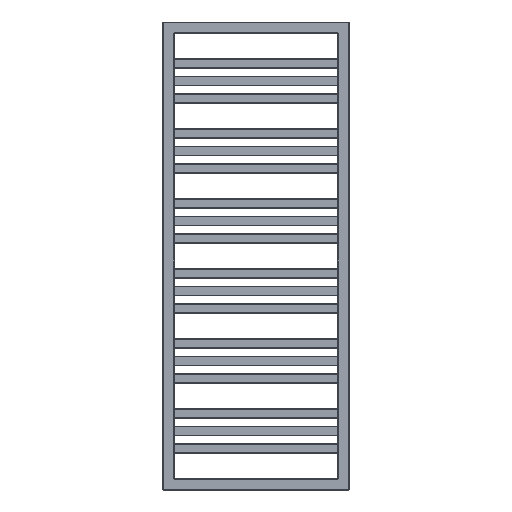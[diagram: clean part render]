
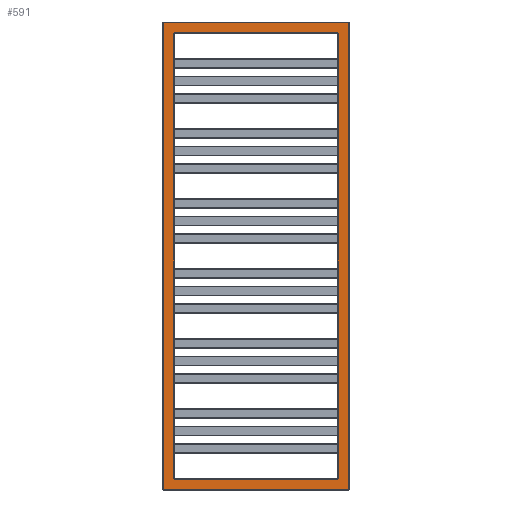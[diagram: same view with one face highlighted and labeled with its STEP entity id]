
A CAD part, top view. The second image highlights one B-rep face of the part: STEP entity #591.
In plain terms, the highlighted planar face has unit normal (0, 0, 1).
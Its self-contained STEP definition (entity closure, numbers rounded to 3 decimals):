
#168 = CARTESIAN_POINT ( 'NONE',  ( 249., 627.5, 15. ) ) ;
#193 = CARTESIAN_POINT ( 'NONE',  ( 221., -598.5, 15. ) ) ;
#359 = CARTESIAN_POINT ( 'NONE',  ( -221., -597.5, 15. ) ) ;
#407 = EDGE_LOOP ( 'NONE', ( #11157, #9372, #9670, #8884, #8318, #2121, #4153, #4969 ) ) ;
#497 = VECTOR ( 'NONE', #10654, 1000. ) ;
#591 = ADVANCED_FACE ( 'NONE', ( #6340, #6590 ), #9405, .F. ) ;
#1274 = VERTEX_POINT ( 'NONE', #4461 ) ;
#1372 = VERTEX_POINT ( 'NONE', #12792 ) ;
#1483 = CIRCLE ( 'NONE', #12412, 2. ) ;
#1600 = CARTESIAN_POINT ( 'NONE',  ( 0., 0., 15. ) ) ;
#1669 = DIRECTION ( 'NONE',  ( -1., 0., 0. ) ) ;
#1796 = EDGE_CURVE ( 'NONE', #1372, #9128, #5304, .T. ) ;
#2121 = ORIENTED_EDGE ( 'NONE', *, *, #2271, .T. ) ;
#2245 = CARTESIAN_POINT ( 'NONE',  ( 221., -597.5, 15. ) ) ;
#2266 = CIRCLE ( 'NONE', #2681, 2. ) ;
#2271 = EDGE_CURVE ( 'NONE', #3753, #2313, #9016, .T. ) ;
#2313 = VERTEX_POINT ( 'NONE', #13245 ) ;
#2410 = AXIS2_PLACEMENT_3D ( 'NONE', #9051, #13154, #12887 ) ;
#2482 = DIRECTION ( 'NONE',  ( -1., 0., 0. ) ) ;
#2550 = CARTESIAN_POINT ( 'NONE',  ( 0., 627.5, 15. ) ) ;
#2681 = AXIS2_PLACEMENT_3D ( 'NONE', #3437, #7554, #10091 ) ;
#2697 = ORIENTED_EDGE ( 'NONE', *, *, #7713, .T. ) ;
#3068 = DIRECTION ( 'NONE',  ( -1., 0., 0. ) ) ;
#3112 = VECTOR ( 'NONE', #5592, 1000. ) ;
#3226 = EDGE_CURVE ( 'NONE', #5658, #4269, #3619, .T. ) ;
#3437 = CARTESIAN_POINT ( 'NONE',  ( 219., 597.5, 15. ) ) ;
#3475 = DIRECTION ( 'NONE',  ( 0., 0., -1. ) ) ;
#3619 = LINE ( 'NONE', #7668, #3112 ) ;
#3698 = VECTOR ( 'NONE', #9391, 1000. ) ;
#3712 = CARTESIAN_POINT ( 'NONE',  ( 249., -627.5, 15. ) ) ;
#3753 = VERTEX_POINT ( 'NONE', #7954 ) ;
#3967 = ORIENTED_EDGE ( 'NONE', *, *, #10189, .T. ) ;
#3991 = EDGE_CURVE ( 'NONE', #1372, #4269, #13234, .T. ) ;
#4069 = VECTOR ( 'NONE', #4174, 1000. ) ;
#4153 = ORIENTED_EDGE ( 'NONE', *, *, #8602, .F. ) ;
#4174 = DIRECTION ( 'NONE',  ( 0., 1., 0. ) ) ;
#4269 = VERTEX_POINT ( 'NONE', #6404 ) ;
#4329 = DIRECTION ( 'NONE',  ( 0., -1., 0. ) ) ;
#4357 = CARTESIAN_POINT ( 'NONE',  ( 220., 599.5, 15. ) ) ;
#4461 = CARTESIAN_POINT ( 'NONE',  ( -249., -627.5, 15. ) ) ;
#4525 = CARTESIAN_POINT ( 'NONE',  ( 0., -627.5, 15. ) ) ;
#4796 = VERTEX_POINT ( 'NONE', #3712 ) ;
#4799 = VECTOR ( 'NONE', #5751, 1000. ) ;
#4969 = ORIENTED_EDGE ( 'NONE', *, *, #3226, .T. ) ;
#5304 = LINE ( 'NONE', #4357, #3698 ) ;
#5488 = LINE ( 'NONE', #10385, #7091 ) ;
#5490 = LINE ( 'NONE', #193, #497 ) ;
#5592 = DIRECTION ( 'NONE',  ( 0., 1., 0. ) ) ;
#5658 = VERTEX_POINT ( 'NONE', #359 ) ;
#5751 = DIRECTION ( 'NONE',  ( -1., 0., 0. ) ) ;
#6001 = CARTESIAN_POINT ( 'NONE',  ( -249., 627.5, 15. ) ) ;
#6340 = FACE_BOUND ( 'NONE', #407, .T. ) ;
#6404 = CARTESIAN_POINT ( 'NONE',  ( -221., 597.5, 15. ) ) ;
#6489 = LINE ( 'NONE', #4525, #8668 ) ;
#6590 = FACE_OUTER_BOUND ( 'NONE', #10285, .T. ) ;
#6684 = DIRECTION ( 'NONE',  ( -1., 0., 0. ) ) ;
#6766 = CARTESIAN_POINT ( 'NONE',  ( -220., -599.5, 15. ) ) ;
#6933 = AXIS2_PLACEMENT_3D ( 'NONE', #1600, #3475, #1669 ) ;
#7091 = VECTOR ( 'NONE', #4329, 1000. ) ;
#7109 = EDGE_CURVE ( 'NONE', #3753, #9232, #1483, .T. ) ;
#7554 = DIRECTION ( 'NONE',  ( 0., 0., 1. ) ) ;
#7668 = CARTESIAN_POINT ( 'NONE',  ( -221., 598.5, 15. ) ) ;
#7711 = CARTESIAN_POINT ( 'NONE',  ( 221., 597.5, 15. ) ) ;
#7713 = EDGE_CURVE ( 'NONE', #10412, #1274, #5488, .T. ) ;
#7954 = CARTESIAN_POINT ( 'NONE',  ( 219., -599.5, 15. ) ) ;
#7971 = EDGE_CURVE ( 'NONE', #4796, #8006, #10497, .T. ) ;
#8006 = VERTEX_POINT ( 'NONE', #168 ) ;
#8318 = ORIENTED_EDGE ( 'NONE', *, *, #7109, .F. ) ;
#8602 = EDGE_CURVE ( 'NONE', #5658, #2313, #13132, .T. ) ;
#8668 = VECTOR ( 'NONE', #9352, 1000. ) ;
#8676 = VECTOR ( 'NONE', #2482, 1000. ) ;
#8794 = EDGE_CURVE ( 'NONE', #12135, #9232, #5490, .T. ) ;
#8884 = ORIENTED_EDGE ( 'NONE', *, *, #8794, .T. ) ;
#9016 = LINE ( 'NONE', #6766, #4799 ) ;
#9027 = ORIENTED_EDGE ( 'NONE', *, *, #9235, .T. ) ;
#9051 = CARTESIAN_POINT ( 'NONE',  ( -219., -597.5, 15. ) ) ;
#9128 = VERTEX_POINT ( 'NONE', #12246 ) ;
#9192 = CARTESIAN_POINT ( 'NONE',  ( 219., -597.5, 15. ) ) ;
#9232 = VERTEX_POINT ( 'NONE', #2245 ) ;
#9235 = EDGE_CURVE ( 'NONE', #1274, #4796, #6489, .T. ) ;
#9352 = DIRECTION ( 'NONE',  ( 1., 0., 0. ) ) ;
#9372 = ORIENTED_EDGE ( 'NONE', *, *, #1796, .T. ) ;
#9391 = DIRECTION ( 'NONE',  ( 1., 0., 0. ) ) ;
#9405 = PLANE ( 'NONE',  #6933 ) ;
#9552 = CARTESIAN_POINT ( 'NONE',  ( -219., 597.5, 15. ) ) ;
#9670 = ORIENTED_EDGE ( 'NONE', *, *, #11282, .F. ) ;
#10091 = DIRECTION ( 'NONE',  ( -1., 0., 0. ) ) ;
#10189 = EDGE_CURVE ( 'NONE', #8006, #10412, #10740, .T. ) ;
#10285 = EDGE_LOOP ( 'NONE', ( #2697, #9027, #12697, #3967 ) ) ;
#10385 = CARTESIAN_POINT ( 'NONE',  ( -249., 0., 15. ) ) ;
#10412 = VERTEX_POINT ( 'NONE', #6001 ) ;
#10497 = LINE ( 'NONE', #10567, #4069 ) ;
#10567 = CARTESIAN_POINT ( 'NONE',  ( 249., 0., 15. ) ) ;
#10654 = DIRECTION ( 'NONE',  ( 0., -1., 0. ) ) ;
#10740 = LINE ( 'NONE', #2550, #8676 ) ;
#11157 = ORIENTED_EDGE ( 'NONE', *, *, #3991, .F. ) ;
#11282 = EDGE_CURVE ( 'NONE', #12135, #9128, #2266, .T. ) ;
#11777 = DIRECTION ( 'NONE',  ( 0., 0., 1. ) ) ;
#12135 = VERTEX_POINT ( 'NONE', #7711 ) ;
#12149 = AXIS2_PLACEMENT_3D ( 'NONE', #9552, #11777, #6684 ) ;
#12246 = CARTESIAN_POINT ( 'NONE',  ( 219., 599.5, 15. ) ) ;
#12274 = DIRECTION ( 'NONE',  ( 0., 0., 1. ) ) ;
#12412 = AXIS2_PLACEMENT_3D ( 'NONE', #9192, #12274, #3068 ) ;
#12697 = ORIENTED_EDGE ( 'NONE', *, *, #7971, .T. ) ;
#12792 = CARTESIAN_POINT ( 'NONE',  ( -219., 599.5, 15. ) ) ;
#12887 = DIRECTION ( 'NONE',  ( -1., 0., 0. ) ) ;
#13132 = CIRCLE ( 'NONE', #2410, 2. ) ;
#13154 = DIRECTION ( 'NONE',  ( 0., 0., 1. ) ) ;
#13234 = CIRCLE ( 'NONE', #12149, 2. ) ;
#13245 = CARTESIAN_POINT ( 'NONE',  ( -219., -599.5, 15. ) ) ;
